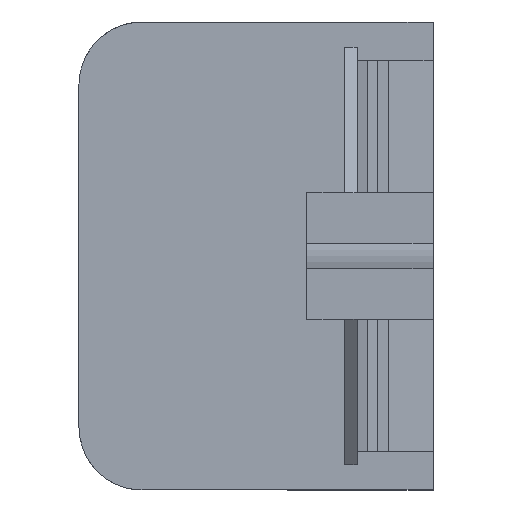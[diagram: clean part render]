
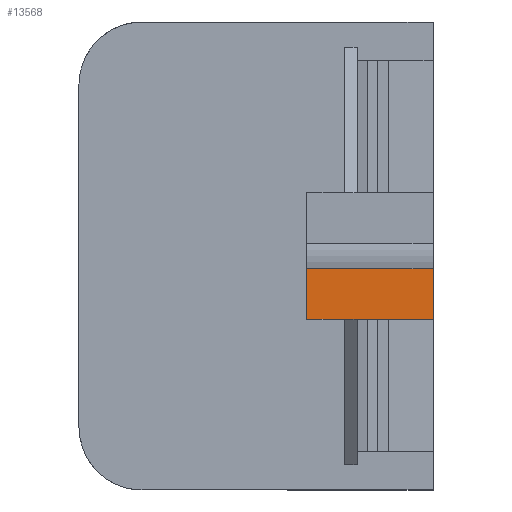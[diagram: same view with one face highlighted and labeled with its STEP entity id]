
A CAD part, left-side view. The second image highlights one B-rep face of the part: STEP entity #13568.
In plain terms, the highlighted planar face has unit normal (-1, 0, 0).
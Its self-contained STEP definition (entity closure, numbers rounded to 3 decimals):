
#106 = VERTEX_POINT ( 'NONE', #17519 ) ;
#835 = LINE ( 'NONE', #29580, #7661 ) ;
#1677 = VERTEX_POINT ( 'NONE', #59166 ) ;
#4245 = CARTESIAN_POINT ( 'NONE',  ( -92., -4., -5. ) ) ;
#4534 = EDGE_CURVE ( 'NONE', #106, #7506, #34821, .T. ) ;
#4963 = CARTESIAN_POINT ( 'NONE',  ( -92., 0., -5. ) ) ;
#6344 = EDGE_CURVE ( 'NONE', #48861, #20911, #62413, .T. ) ;
#6452 = EDGE_CURVE ( 'NONE', #20911, #24371, #40407, .T. ) ;
#7506 = VERTEX_POINT ( 'NONE', #39240 ) ;
#7661 = VECTOR ( 'NONE', #61752, 1000. ) ;
#10547 = LINE ( 'NONE', #4963, #30146 ) ;
#13568 = ADVANCED_FACE ( 'NONE', ( #36352 ), #42386, .T. ) ;
#15558 = CARTESIAN_POINT ( 'NONE',  ( -92., 0., 0. ) ) ;
#15758 = DIRECTION ( 'NONE',  ( 0., 1., 0. ) ) ;
#15908 = EDGE_LOOP ( 'NONE', ( #62294, #69151, #20487, #33886, #52211, #67139 ) ) ;
#16858 = VECTOR ( 'NONE', #56191, 1000. ) ;
#17519 = CARTESIAN_POINT ( 'NONE',  ( -92., 0., -1. ) ) ;
#17614 = EDGE_CURVE ( 'NONE', #1677, #106, #31374, .T. ) ;
#18495 = CARTESIAN_POINT ( 'NONE',  ( -92., 0., -1. ) ) ;
#20487 = ORIENTED_EDGE ( 'NONE', *, *, #17614, .T. ) ;
#20911 = VERTEX_POINT ( 'NONE', #4245 ) ;
#24371 = VERTEX_POINT ( 'NONE', #32744 ) ;
#25994 = VECTOR ( 'NONE', #33327, 1000. ) ;
#27172 = DIRECTION ( 'NONE',  ( 0., 0., -1. ) ) ;
#29580 = CARTESIAN_POINT ( 'NONE',  ( -92., -10., 0. ) ) ;
#30146 = VECTOR ( 'NONE', #31350, 1000. ) ;
#31315 = DIRECTION ( 'NONE',  ( -1., 0., 0. ) ) ;
#31350 = DIRECTION ( 'NONE',  ( 0., -1., 0. ) ) ;
#31374 = LINE ( 'NONE', #18495, #16858 ) ;
#32419 = CARTESIAN_POINT ( 'NONE',  ( -92., 0., -5. ) ) ;
#32744 = CARTESIAN_POINT ( 'NONE',  ( -92., -3., -5. ) ) ;
#33327 = DIRECTION ( 'NONE',  ( 0., 1., 0. ) ) ;
#33886 = ORIENTED_EDGE ( 'NONE', *, *, #4534, .T. ) ;
#34821 = LINE ( 'NONE', #69527, #60157 ) ;
#36352 = FACE_OUTER_BOUND ( 'NONE', #15908, .T. ) ;
#36462 = EDGE_CURVE ( 'NONE', #1677, #48861, #835, .T. ) ;
#37423 = DIRECTION ( 'NONE',  ( 0., -1., 0. ) ) ;
#39240 = CARTESIAN_POINT ( 'NONE',  ( -92., 0., -5. ) ) ;
#40407 = LINE ( 'NONE', #32419, #25994 ) ;
#42386 = PLANE ( 'NONE',  #63748 ) ;
#43899 = CARTESIAN_POINT ( 'NONE',  ( -92., -10., -5. ) ) ;
#48861 = VERTEX_POINT ( 'NONE', #43899 ) ;
#49241 = EDGE_CURVE ( 'NONE', #7506, #24371, #10547, .T. ) ;
#52211 = ORIENTED_EDGE ( 'NONE', *, *, #49241, .T. ) ;
#52289 = VECTOR ( 'NONE', #15758, 1000. ) ;
#56191 = DIRECTION ( 'NONE',  ( 0., 1., 0. ) ) ;
#59166 = CARTESIAN_POINT ( 'NONE',  ( -92., -10., -1. ) ) ;
#60157 = VECTOR ( 'NONE', #27172, 1000. ) ;
#61752 = DIRECTION ( 'NONE',  ( 0., 0., -1. ) ) ;
#62294 = ORIENTED_EDGE ( 'NONE', *, *, #6344, .F. ) ;
#62413 = LINE ( 'NONE', #69531, #52289 ) ;
#63748 = AXIS2_PLACEMENT_3D ( 'NONE', #15558, #31315, #37423 ) ;
#67139 = ORIENTED_EDGE ( 'NONE', *, *, #6452, .F. ) ;
#69151 = ORIENTED_EDGE ( 'NONE', *, *, #36462, .F. ) ;
#69527 = CARTESIAN_POINT ( 'NONE',  ( -92., 0., 0. ) ) ;
#69531 = CARTESIAN_POINT ( 'NONE',  ( -92., -10., -5. ) ) ;
